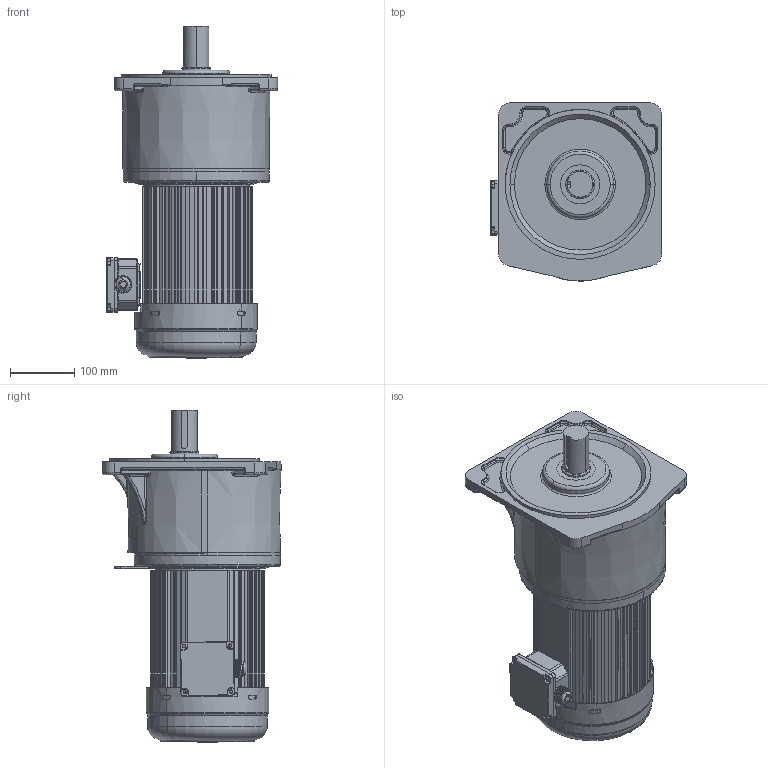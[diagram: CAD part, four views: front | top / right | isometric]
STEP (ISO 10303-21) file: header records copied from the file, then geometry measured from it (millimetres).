
FILE_DESCRIPTION (( 'STEP AP203' ), '1' );
FILE_NAME ('2200W饜5#蕾宒.STEP', '2020-04-13T10:50:52', ( 'china' ), ( 'china' ), 'SwSTEP 2.0', 'SolidWorks 2019', '' );
FILE_SCHEMA (( 'CONFIG_CONTROL_DESIGN' ));
Length unit declared in the file: millimetre
Products named in the file (10): 5-1500w2200wxianggai; 2200W儂褲; 1500W綴傷裔; 2200W饜5#蕾宒; 瑞欶; 蜊輛綴諉盄碟釱3; 諉芛; 蜊輛綴諉盄碟裔3; 怀堤粣; 5-lishixiangti
Assembly tree (9 placements, depth 2):
  2200W饜5#蕾宒
    怀堤粣
    5-1500w2200wxianggai
    1500W綴傷裔
    瑞欶
    蜊輛綴諉盄碟釱3
    諉芛
    蜊輛綴諉盄碟裔3
    5-lishixiangti
    2200W儂褲
Bounding box: 267.09 x 277.99 x 517.98 mm (x, y, z)
Volume: 3621198.8 mm3; surface area: 1245508.9 mm2
Topology: 9 solids, 20 shells, 3759 faces, 9788 edges, 6105 vertices
Faces by surface type: plane 1335, cylinder 1237, bspline 665, torus 352, cone 128, sphere 42
Entity records: 159350 total; most frequent: CARTESIAN_POINT 70077, ORIENTED_EDGE 19430, DIRECTION 17245, EDGE_CURVE 9715, AXIS2_PLACEMENT_3D 6315, VERTEX_POINT 6090, VECTOR 4615, LINE 4615
